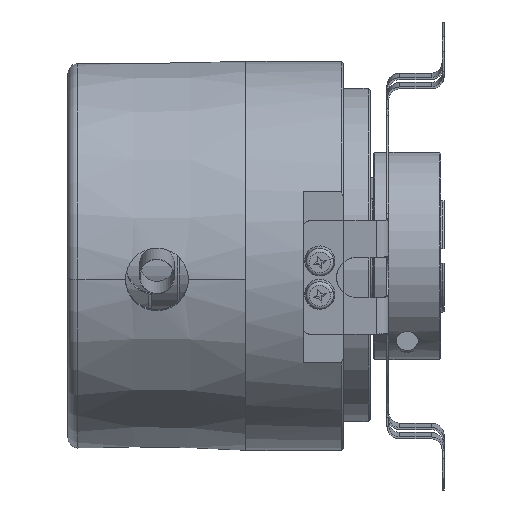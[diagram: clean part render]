
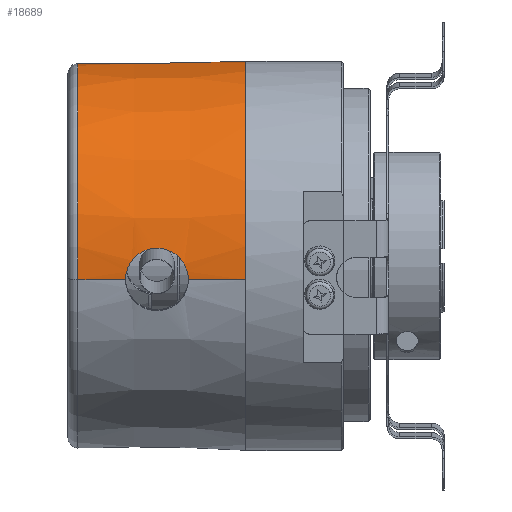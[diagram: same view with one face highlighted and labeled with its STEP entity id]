
A CAD part, front view. The second image highlights one B-rep face of the part: STEP entity #18689.
In plain terms, the highlighted conical face has half-angle 0.75 degrees and reference radius 29 mm.
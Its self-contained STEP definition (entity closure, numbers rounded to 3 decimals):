
#4067 = FACE_OUTER_BOUND ( 'NONE', #7479, .T. ) ;
#4070 = AXIS2_PLACEMENT_3D ( 'NONE', #9013, #9014, #9015 ) ;
#7479 = EDGE_LOOP ( 'NONE', ( #38942, #38861, #38905, #39046, #38836, #38892, #39033 ) ) ;
#9013 = CARTESIAN_POINT ( 'NONE',  ( 7.5, 0., 0. ) ) ;
#9014 = DIRECTION ( 'NONE',  ( 1., 0., 0. ) ) ;
#9015 = DIRECTION ( 'NONE',  ( 0., -0.993, -0.122 ) ) ;
#15013 = CARTESIAN_POINT ( 'NONE',  ( -10.431, -28.551, -3.506 ) ) ;
#15014 = CARTESIAN_POINT ( 'NONE',  ( -10.431, -28.588, -3.203 ) ) ;
#15015 = CARTESIAN_POINT ( 'NONE',  ( -10.401, -28.621, -2.896 ) ) ;
#15016 = CARTESIAN_POINT ( 'NONE',  ( -10.28, -28.677, -2.295 ) ) ;
#15017 = CARTESIAN_POINT ( 'NONE',  ( -10.192, -28.7, -2.004 ) ) ;
#15018 = CARTESIAN_POINT ( 'NONE',  ( -9.958, -28.737, -1.439 ) ) ;
#15019 = CARTESIAN_POINT ( 'NONE',  ( -9.811, -28.751, -1.164 ) ) ;
#15020 = CARTESIAN_POINT ( 'NONE',  ( -9.471, -28.771, -0.655 ) ) ;
#15021 = CARTESIAN_POINT ( 'NONE',  ( -9.278, -28.778, -0.419 ) ) ;
#15022 = CARTESIAN_POINT ( 'NONE',  ( -8.844, -28.787, 0.018 ) ) ;
#15023 = CARTESIAN_POINT ( 'NONE',  ( -8.605, -28.789, 0.215 ) ) ;
#15024 = CARTESIAN_POINT ( 'NONE',  ( -8.099, -28.791, 0.556 ) ) ;
#15025 = CARTESIAN_POINT ( 'NONE',  ( -7.828, -28.791, 0.702 ) ) ;
#15026 = CARTESIAN_POINT ( 'NONE',  ( -7.258, -28.792, 0.94 ) ) ;
#15027 = CARTESIAN_POINT ( 'NONE',  ( -6.966, -28.792, 1.029 ) ) ;
#15028 = CARTESIAN_POINT ( 'NONE',  ( -6.367, -28.796, 1.149 ) ) ;
#15029 = CARTESIAN_POINT ( 'NONE',  ( -6.057, -28.798, 1.18 ) ) ;
#15030 = CARTESIAN_POINT ( 'NONE',  ( -5.75, -28.802, 1.18 ) ) ;
#16918 = CONICAL_SURFACE ( 'NONE', #4070, 29., 0.013 ) ;
#18689 = ADVANCED_FACE ( 'NONE', ( #4067 ), #16918, .T. ) ;
#19554 = AXIS2_PLACEMENT_3D ( 'NONE', #22655, #22656, #22657 ) ;
#20271 = AXIS2_PLACEMENT_3D ( 'NONE', #28121, #28125, #28126 ) ;
#20306 = VECTOR ( 'NONE', #28103, 1000. ) ;
#20309 = VECTOR ( 'NONE', #28124, 1000. ) ;
#20390 = EDGE_CURVE ( 'NONE', #23321, #23313, #39277, .T. ) ;
#21826 = CARTESIAN_POINT ( 'NONE',  ( -5.75, -28.802, 1.18 ) ) ;
#21830 = CARTESIAN_POINT ( 'NONE',  ( -10.431, -28.551, -3.506 ) ) ;
#22316 = CARTESIAN_POINT ( 'NONE',  ( -17.52, -28.459, -3.494 ) ) ;
#22318 = CARTESIAN_POINT ( 'NONE',  ( -17.52, 21.923, 18.479 ) ) ;
#22323 = CARTESIAN_POINT ( 'NONE',  ( 7.5, 22.36, 18.467 ) ) ;
#22344 = CARTESIAN_POINT ( 'NONE',  ( 7.5, -28.784, -3.534 ) ) ;
#22404 = CARTESIAN_POINT ( 'NONE',  ( -1.069, -28.672, -3.521 ) ) ;
#22655 = CARTESIAN_POINT ( 'NONE',  ( -17.52, 0., 0. ) ) ;
#22656 = DIRECTION ( 'NONE',  ( 1., 0., 0. ) ) ;
#22657 = DIRECTION ( 'NONE',  ( 0., 0.993, 0.122 ) ) ;
#23313 = VERTEX_POINT ( 'NONE', #21826 ) ;
#23321 = VERTEX_POINT ( 'NONE', #21830 ) ;
#23864 = VERTEX_POINT ( 'NONE', #22316 ) ;
#23866 = VERTEX_POINT ( 'NONE', #22318 ) ;
#23872 = VERTEX_POINT ( 'NONE', #22323 ) ;
#23908 = VERTEX_POINT ( 'NONE', #22344 ) ;
#24157 = VERTEX_POINT ( 'NONE', #22404 ) ;
#26938 = CIRCLE ( 'NONE', #19554, 28.672 ) ;
#27121 = CIRCLE ( 'NONE', #20271, 29. ) ;
#27712 = B_SPLINE_CURVE_WITH_KNOTS ( 'NONE', 3,
 ( #28097, #28104, #28105, #28106, #28107, #28108, #28109, #28110, #28111, #28112, #28113, #28114, #28115, #28116, #28117, #28118, #28119, #28120 ),
 .UNSPECIFIED., .F., .F.,
 ( 4, 2, 2, 2, 2, 2, 2, 2, 4 ),
 ( 0.011, 0.012, 0.013, 0.014, 0.015, 0.016, 0.017, 0.018, 0.019 ),
 .UNSPECIFIED. ) ;
#27713 = B_SPLINE_CURVE_WITH_KNOTS ( 'NONE', 3,
 ( #28127, #28128, #28129, #28130, #28131, #28132, #28133, #28134, #28135, #28136 ),
 .UNSPECIFIED., .F., .F.,
 ( 4, 3, 3, 4 ),
 ( 0., 0.003, 0.015, 0.025 ),
 .UNSPECIFIED. ) ;
#28097 = CARTESIAN_POINT ( 'NONE',  ( -5.75, -28.802, 1.18 ) ) ;
#28101 = LINE ( 'NONE', #28102, #20306 ) ;
#28102 = CARTESIAN_POINT ( 'NONE',  ( 7.5, -28.784, -3.534 ) ) ;
#28103 = DIRECTION ( 'NONE',  ( 1., -0.013, -0.002 ) ) ;
#28104 = CARTESIAN_POINT ( 'NONE',  ( -5.443, -28.806, 1.179 ) ) ;
#28105 = CARTESIAN_POINT ( 'NONE',  ( -5.139, -28.812, 1.148 ) ) ;
#28106 = CARTESIAN_POINT ( 'NONE',  ( -4.537, -28.824, 1.026 ) ) ;
#28107 = CARTESIAN_POINT ( 'NONE',  ( -4.239, -28.831, 0.934 ) ) ;
#28108 = CARTESIAN_POINT ( 'NONE',  ( -3.675, -28.846, 0.697 ) ) ;
#28109 = CARTESIAN_POINT ( 'NONE',  ( -3.405, -28.853, 0.551 ) ) ;
#28110 = CARTESIAN_POINT ( 'NONE',  ( -2.892, -28.864, 0.204 ) ) ;
#28111 = CARTESIAN_POINT ( 'NONE',  ( -2.656, -28.868, 0.008 ) ) ;
#28112 = CARTESIAN_POINT ( 'NONE',  ( -2.225, -28.87, -0.426 ) ) ;
#28113 = CARTESIAN_POINT ( 'NONE',  ( -2.028, -28.869, -0.668 ) ) ;
#28114 = CARTESIAN_POINT ( 'NONE',  ( -1.688, -28.857, -1.18 ) ) ;
#28115 = CARTESIAN_POINT ( 'NONE',  ( -1.544, -28.847, -1.449 ) ) ;
#28116 = CARTESIAN_POINT ( 'NONE',  ( -1.309, -28.816, -2.015 ) ) ;
#28117 = CARTESIAN_POINT ( 'NONE',  ( -1.219, -28.795, -2.313 ) ) ;
#28118 = CARTESIAN_POINT ( 'NONE',  ( -1.099, -28.742, -2.912 ) ) ;
#28119 = CARTESIAN_POINT ( 'NONE',  ( -1.069, -28.71, -3.214 ) ) ;
#28120 = CARTESIAN_POINT ( 'NONE',  ( -1.069, -28.672, -3.521 ) ) ;
#28121 = CARTESIAN_POINT ( 'NONE',  ( 7.5, 0., 0. ) ) ;
#28122 = LINE ( 'NONE', #28123, #20309 ) ;
#28123 = CARTESIAN_POINT ( 'NONE',  ( 7.5, -28.784, -3.534 ) ) ;
#28124 = DIRECTION ( 'NONE',  ( 1., -0.013, -0.002 ) ) ;
#28125 = DIRECTION ( 'NONE',  ( -1., 0., 0. ) ) ;
#28126 = DIRECTION ( 'NONE',  ( 0., 0.993, 0.122 ) ) ;
#28127 = CARTESIAN_POINT ( 'NONE',  ( 7.5, 22.36, 18.467 ) ) ;
#28128 = CARTESIAN_POINT ( 'NONE',  ( 6.5, 22.343, 18.468 ) ) ;
#28129 = CARTESIAN_POINT ( 'NONE',  ( 5.5, 22.325, 18.468 ) ) ;
#28130 = CARTESIAN_POINT ( 'NONE',  ( 4.5, 22.308, 18.469 ) ) ;
#28131 = CARTESIAN_POINT ( 'NONE',  ( 0.501, 22.238, 18.47 ) ) ;
#28132 = CARTESIAN_POINT ( 'NONE',  ( -3.498, 22.169, 18.472 ) ) ;
#28133 = CARTESIAN_POINT ( 'NONE',  ( -7.498, 22.099, 18.474 ) ) ;
#28134 = CARTESIAN_POINT ( 'NONE',  ( -10.838, 22.04, 18.476 ) ) ;
#28135 = CARTESIAN_POINT ( 'NONE',  ( -14.179, 21.982, 18.477 ) ) ;
#28136 = CARTESIAN_POINT ( 'NONE',  ( -17.52, 21.923, 18.479 ) ) ;
#31107 = EDGE_CURVE ( 'NONE', #23866, #23864, #26938, .T. ) ;
#31496 = EDGE_CURVE ( 'NONE', #23864, #23321, #28101, .T. ) ;
#31497 = EDGE_CURVE ( 'NONE', #23313, #24157, #27712, .T. ) ;
#31498 = EDGE_CURVE ( 'NONE', #24157, #23908, #28122, .T. ) ;
#31499 = EDGE_CURVE ( 'NONE', #23908, #23872, #27121, .T. ) ;
#31500 = EDGE_CURVE ( 'NONE', #23872, #23866, #27713, .T. ) ;
#38836 = ORIENTED_EDGE ( 'NONE', *, *, #31498, .T. ) ;
#38861 = ORIENTED_EDGE ( 'NONE', *, *, #31496, .T. ) ;
#38892 = ORIENTED_EDGE ( 'NONE', *, *, #31499, .T. ) ;
#38905 = ORIENTED_EDGE ( 'NONE', *, *, #20390, .T. ) ;
#38942 = ORIENTED_EDGE ( 'NONE', *, *, #31107, .T. ) ;
#39033 = ORIENTED_EDGE ( 'NONE', *, *, #31500, .T. ) ;
#39046 = ORIENTED_EDGE ( 'NONE', *, *, #31497, .T. ) ;
#39277 = B_SPLINE_CURVE_WITH_KNOTS ( 'NONE', 3,
 ( #15013, #15014, #15015, #15016, #15017, #15018, #15019, #15020, #15021, #15022, #15023, #15024, #15025, #15026, #15027, #15028, #15029, #15030 ),
 .UNSPECIFIED., .F., .F.,
 ( 4, 2, 2, 2, 2, 2, 2, 2, 4 ),
 ( 0.004, 0.005, 0.006, 0.007, 0.008, 0.009, 0.01, 0.01, 0.011 ),
 .UNSPECIFIED. ) ;
